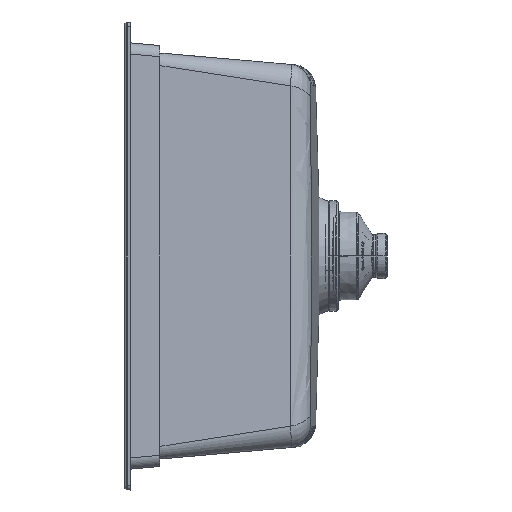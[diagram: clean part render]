
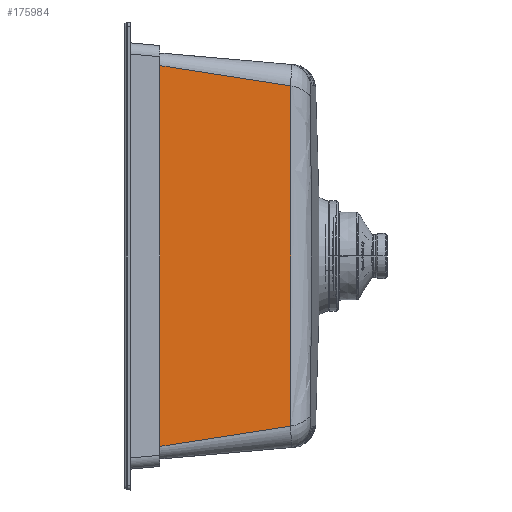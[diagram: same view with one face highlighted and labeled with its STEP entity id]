
A CAD part, left-side view. The second image highlights one B-rep face of the part: STEP entity #175984.
In plain terms, the highlighted planar face has unit normal (-0.996, -0.087, 0).
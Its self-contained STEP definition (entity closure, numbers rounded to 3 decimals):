
#6214 = ORIENTED_EDGE ( 'NONE', *, *, #29818, .F. ) ;
#17465 = CARTESIAN_POINT ( 'NONE',  ( 33.129, -31.886, -46.574 ) ) ;
#21590 = EDGE_CURVE ( 'NONE', #127551, #157959, #74921, .T. ) ;
#23933 = CARTESIAN_POINT ( 'NONE',  ( 45.341, -171.466, -459.54 ) ) ;
#29818 = EDGE_CURVE ( 'NONE', #122477, #140878, #163174, .T. ) ;
#38983 = CARTESIAN_POINT ( 'NONE',  ( 33.129, -31.886, -453.426 ) ) ;
#43069 = VECTOR ( 'NONE', #86400, 1000. ) ;
#49673 = FACE_OUTER_BOUND ( 'NONE', #176864, .T. ) ;
#61990 = CARTESIAN_POINT ( 'NONE',  ( 32.49, -24.583, -459.54 ) ) ;
#65614 = B_SPLINE_CURVE_WITH_KNOTS ( 'NONE', 3,
 ( #68290, #130744, #100017, #162458 ),
 .UNSPECIFIED., .F., .F.,
 ( 4, 4 ),
 ( -0.109, 0.033 ),
 .UNSPECIFIED. ) ;
#68290 = CARTESIAN_POINT ( 'NONE',  ( 45.341, -171.466, -431.759 ) ) ;
#74921 = LINE ( 'NONE', #137367, #95645 ) ;
#75953 = DIRECTION ( 'NONE',  ( 0., 0., -1. ) ) ;
#80920 = CARTESIAN_POINT ( 'NONE',  ( 37.2, -78.413, -53.797 ) ) ;
#86127 = EDGE_CURVE ( 'NONE', #140878, #157959, #65614, .T. ) ;
#86400 = DIRECTION ( 'NONE',  ( 0., 0., -1. ) ) ;
#91830 = CARTESIAN_POINT ( 'NONE',  ( 45.341, -171.466, -68.241 ) ) ;
#95645 = VECTOR ( 'NONE', #75953, 1000. ) ;
#96213 = AXIS2_PLACEMENT_3D ( 'NONE', #61990, #188887, #125493 ) ;
#98258 = CARTESIAN_POINT ( 'NONE',  ( 41.27, -124.939, -61.019 ) ) ;
#100017 = CARTESIAN_POINT ( 'NONE',  ( 37.2, -78.413, -446.203 ) ) ;
#103621 = ORIENTED_EDGE ( 'NONE', *, *, #86127, .F. ) ;
#109101 = PLANE ( 'NONE',  #96213 ) ;
#113472 = ORIENTED_EDGE ( 'NONE', *, *, #186904, .F. ) ;
#122477 = VERTEX_POINT ( 'NONE', #91830 ) ;
#125493 = DIRECTION ( 'NONE',  ( -0.087, 0.996, 0. ) ) ;
#127551 = VERTEX_POINT ( 'NONE', #161561 ) ;
#130097 = ORIENTED_EDGE ( 'NONE', *, *, #21590, .T. ) ;
#130744 = CARTESIAN_POINT ( 'NONE',  ( 41.27, -124.939, -438.981 ) ) ;
#136071 = CARTESIAN_POINT ( 'NONE',  ( 45.341, -171.466, -431.759 ) ) ;
#137367 = CARTESIAN_POINT ( 'NONE',  ( 33.129, -31.886, 428.165 ) ) ;
#140878 = VERTEX_POINT ( 'NONE', #136071 ) ;
#146351 = CARTESIAN_POINT ( 'NONE',  ( 45.341, -171.466, -68.241 ) ) ;
#157959 = VERTEX_POINT ( 'NONE', #38983 ) ;
#161561 = CARTESIAN_POINT ( 'NONE',  ( 33.129, -31.886, -46.574 ) ) ;
#162458 = CARTESIAN_POINT ( 'NONE',  ( 33.129, -31.886, -453.426 ) ) ;
#163174 = LINE ( 'NONE', #23933, #43069 ) ;
#175984 = ADVANCED_FACE ( 'NONE', ( #49673 ), #109101, .F. ) ;
#176864 = EDGE_LOOP ( 'NONE', ( #130097, #103621, #6214, #113472 ) ) ;
#183850 = B_SPLINE_CURVE_WITH_KNOTS ( 'NONE', 3,
 ( #17465, #80920, #98258, #146351 ),
 .UNSPECIFIED., .F., .F.,
 ( 4, 4 ),
 ( -0.106, 0.036 ),
 .UNSPECIFIED. ) ;
#186904 = EDGE_CURVE ( 'NONE', #127551, #122477, #183850, .T. ) ;
#188887 = DIRECTION ( 'NONE',  ( 0.996, 0.087, 0. ) ) ;
